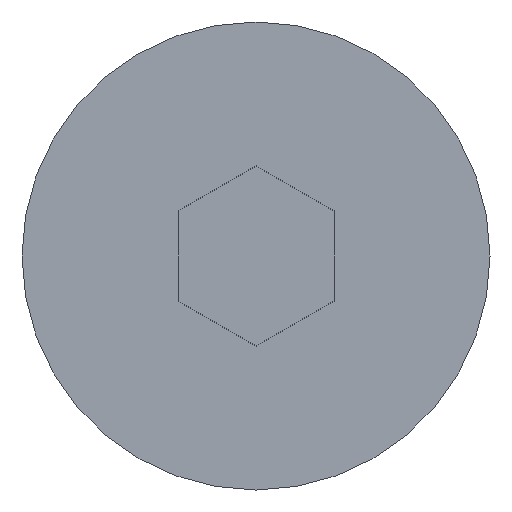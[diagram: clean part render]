
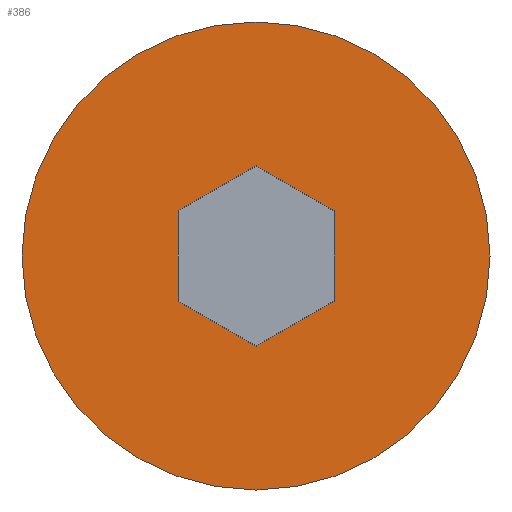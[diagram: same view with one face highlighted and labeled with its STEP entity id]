
A CAD part, front view. The second image highlights one B-rep face of the part: STEP entity #386.
In plain terms, the highlighted planar face has unit normal (0, -1, 0).
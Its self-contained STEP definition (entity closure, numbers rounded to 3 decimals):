
#93=CARTESIAN_POINT('',(0.,-3.3,0.));
#94=DIRECTION('',(0.,-1.,0.));
#95=DIRECTION('',(1.,0.,0.));
#96=AXIS2_PLACEMENT_3D('',#93,#94,#95);
#98=CARTESIAN_POINT('',(0.,-3.3,0.));
#99=DIRECTION('',(0.,-1.,0.));
#100=DIRECTION('',(-1.,0.,0.));
#101=AXIS2_PLACEMENT_3D('',#98,#99,#100);
#103=DIRECTION('',(0.,0.,1.));
#104=VECTOR('',#103,2.309);
#105=CARTESIAN_POINT('',(2.,-3.3,-1.155));
#106=LINE('',#105,#104);
#107=DIRECTION('',(-0.866,0.,0.5));
#108=VECTOR('',#107,2.309);
#109=CARTESIAN_POINT('',(2.,-3.3,1.155));
#110=LINE('',#109,#108);
#111=DIRECTION('',(-0.866,0.,-0.5));
#112=VECTOR('',#111,2.309);
#113=CARTESIAN_POINT('',(0.,-3.3,2.309));
#114=LINE('',#113,#112);
#115=DIRECTION('',(0.,0.,-1.));
#116=VECTOR('',#115,2.309);
#117=CARTESIAN_POINT('',(-2.,-3.3,1.155));
#118=LINE('',#117,#116);
#119=DIRECTION('',(0.866,0.,-0.5));
#120=VECTOR('',#119,2.309);
#121=CARTESIAN_POINT('',(-2.,-3.3,-1.155));
#122=LINE('',#121,#120);
#123=DIRECTION('',(0.866,0.,0.5));
#124=VECTOR('',#123,2.309);
#125=CARTESIAN_POINT('',(0.,-3.3,-2.309));
#126=LINE('',#125,#124);
#175=CARTESIAN_POINT('',(6.,-3.3,0.));
#176=CARTESIAN_POINT('',(-6.,-3.3,0.));
#177=VERTEX_POINT('',#175);
#178=VERTEX_POINT('',#176);
#191=CARTESIAN_POINT('',(2.,-3.3,-1.155));
#192=CARTESIAN_POINT('',(2.,-3.3,1.155));
#193=VERTEX_POINT('',#191);
#194=VERTEX_POINT('',#192);
#195=CARTESIAN_POINT('',(0.,-3.3,2.309));
#196=VERTEX_POINT('',#195);
#197=CARTESIAN_POINT('',(-2.,-3.3,1.155));
#198=VERTEX_POINT('',#197);
#199=CARTESIAN_POINT('',(-2.,-3.3,-1.155));
#200=VERTEX_POINT('',#199);
#201=CARTESIAN_POINT('',(0.,-3.3,-2.309));
#202=VERTEX_POINT('',#201);
#363=CARTESIAN_POINT('',(0.,-3.3,0.));
#364=DIRECTION('',(0.,-1.,0.));
#365=DIRECTION('',(1.,0.,0.));
#366=AXIS2_PLACEMENT_3D('',#363,#364,#365);
#367=PLANE('',#366);
#368=ORIENTED_EDGE('',*,*,#357,.F.);
#369=ORIENTED_EDGE('',*,*,#341,.F.);
#370=EDGE_LOOP('',(#368,#369));
#371=FACE_OUTER_BOUND('',#370,.F.);
#373=ORIENTED_EDGE('',*,*,#372,.T.);
#375=ORIENTED_EDGE('',*,*,#374,.T.);
#377=ORIENTED_EDGE('',*,*,#376,.T.);
#379=ORIENTED_EDGE('',*,*,#378,.T.);
#381=ORIENTED_EDGE('',*,*,#380,.T.);
#383=ORIENTED_EDGE('',*,*,#382,.T.);
#384=EDGE_LOOP('',(#373,#375,#377,#379,#381,#383));
#385=FACE_BOUND('',#384,.F.);
#386=ADVANCED_FACE('',(#371,#385),#367,.T.);
#97=CIRCLE('',#96,6.);
#102=CIRCLE('',#101,6.);
#341=EDGE_CURVE('',#178,#177,#102,.T.);
#357=EDGE_CURVE('',#177,#178,#97,.T.);
#372=EDGE_CURVE('',#193,#194,#106,.T.);
#374=EDGE_CURVE('',#194,#196,#110,.T.);
#376=EDGE_CURVE('',#196,#198,#114,.T.);
#378=EDGE_CURVE('',#198,#200,#118,.T.);
#380=EDGE_CURVE('',#200,#202,#122,.T.);
#382=EDGE_CURVE('',#202,#193,#126,.T.);
